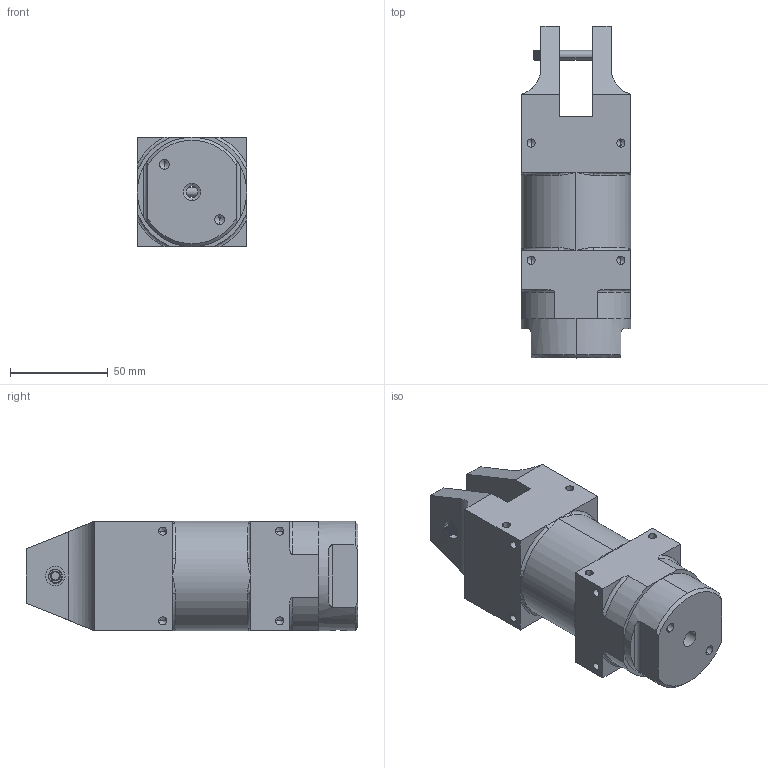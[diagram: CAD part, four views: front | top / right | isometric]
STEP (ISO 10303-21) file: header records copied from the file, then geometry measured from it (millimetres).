
FILE_DESCRIPTION (( 'STEP AP214' ), '1' );
FILE_NAME ('NGT-NS30P.STEP', '2019-11-13T07:17:30', ( '微软用户' ), ( '微软中国' ), 'SwSTEP 2.0', 'SolidWorks 2016', '' );
FILE_SCHEMA (( 'AUTOMOTIVE_DESIGN' ));
Length unit declared in the file: millimetre
Products named in the file (1): NGT-NS30P
Bounding box: 56 x 170 x 56 mm (x, y, z)
Volume: 209893 mm3; surface area: 73024.7 mm2
Topology: 5 solids, 5 shells, 409 faces, 1093 edges, 666 vertices
Faces by surface type: cylinder 202, plane 85, bspline 62, cone 60
Entity records: 27967 total; most frequent: CARTESIAN_POINT 14465, ORIENTED_EDGE 2082, DIRECTION 1617, EDGE_CURVE 1041, VERTEX_POINT 666, AXIS2_PLACEMENT_3D 598, EDGE_LOOP 447, LINE 421
